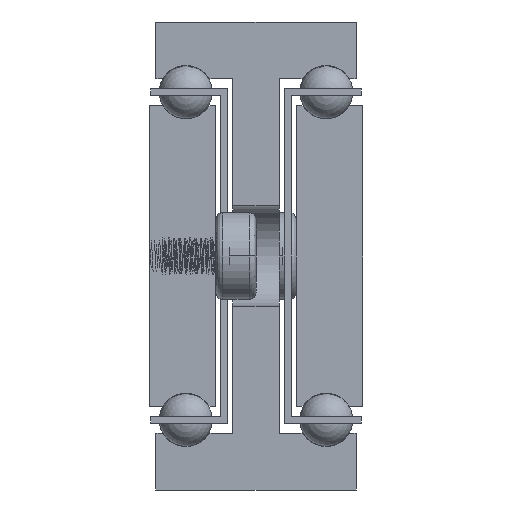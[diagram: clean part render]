
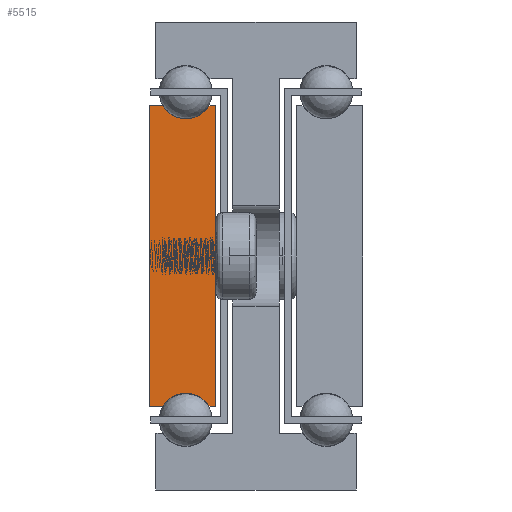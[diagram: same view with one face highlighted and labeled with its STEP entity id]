
A CAD part, front view. The second image highlights one B-rep face of the part: STEP entity #5515.
In plain terms, the highlighted planar face has unit normal (0, -1, 0).
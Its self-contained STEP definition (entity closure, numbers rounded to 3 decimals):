
#845=CIRCLE('',#5903,4.);
#847=CIRCLE('',#5909,4.);
#1249=FACE_OUTER_BOUND('',#1605,.T.);
#1605=EDGE_LOOP('',(#4358,#4359,#4360,#4361,#4362,#4363,#4364,#4365));
#2124=LINE('',#95102,#2336);
#2127=LINE('',#95108,#2339);
#2131=LINE('',#95120,#2343);
#2134=LINE('',#95126,#2346);
#2137=LINE('',#95132,#2349);
#2141=LINE('',#95142,#2353);
#2336=VECTOR('',#6562,1.);
#2339=VECTOR('',#6567,1.);
#2343=VECTOR('',#6579,1.);
#2346=VECTOR('',#6584,1.);
#2349=VECTOR('',#6589,1.);
#2353=VECTOR('',#6601,1.);
#2636=VERTEX_POINT('',#95099);
#2637=VERTEX_POINT('',#95101);
#2639=VERTEX_POINT('',#95107);
#2641=VERTEX_POINT('',#95113);
#2643=VERTEX_POINT('',#95119);
#2645=VERTEX_POINT('',#95125);
#2647=VERTEX_POINT('',#95131);
#2649=VERTEX_POINT('',#95137);
#3330=EDGE_CURVE('',#2637,#2636,#2124,.T.);
#3333=EDGE_CURVE('',#2639,#2637,#2127,.T.);
#3336=EDGE_CURVE('',#2641,#2639,#845,.T.);
#3339=EDGE_CURVE('',#2643,#2641,#2131,.T.);
#3342=EDGE_CURVE('',#2645,#2643,#2134,.T.);
#3345=EDGE_CURVE('',#2647,#2645,#2137,.T.);
#3348=EDGE_CURVE('',#2649,#2647,#847,.T.);
#3351=EDGE_CURVE('',#2636,#2649,#2141,.T.);
#4358=ORIENTED_EDGE('',*,*,#3351,.T.);
#4359=ORIENTED_EDGE('',*,*,#3348,.T.);
#4360=ORIENTED_EDGE('',*,*,#3345,.T.);
#4361=ORIENTED_EDGE('',*,*,#3342,.T.);
#4362=ORIENTED_EDGE('',*,*,#3339,.T.);
#4363=ORIENTED_EDGE('',*,*,#3336,.T.);
#4364=ORIENTED_EDGE('',*,*,#3333,.T.);
#4365=ORIENTED_EDGE('',*,*,#3330,.T.);
#5369=PLANE('',#5912);
#5515=ADVANCED_FACE('',(#1249),#5369,.T.);
#5903=AXIS2_PLACEMENT_3D('',#95114,#6573,#6574);
#5909=AXIS2_PLACEMENT_3D('',#95138,#6595,#6596);
#5912=AXIS2_PLACEMENT_3D('',#95144,#6604,#6605);
#6562=DIRECTION('',(0.,0.,-1.));
#6567=DIRECTION('',(-1.,0.,0.));
#6573=DIRECTION('center_axis',(0.,1.,0.));
#6574=DIRECTION('ref_axis',(-0.866,0.,-0.5));
#6579=DIRECTION('',(-1.,0.,0.));
#6584=DIRECTION('',(0.,0.,1.));
#6589=DIRECTION('',(1.,0.,0.));
#6595=DIRECTION('center_axis',(0.,1.,0.));
#6596=DIRECTION('ref_axis',(0.866,0.,0.5));
#6601=DIRECTION('',(1.,0.,0.));
#6604=DIRECTION('center_axis',(0.,-1.,0.));
#6605=DIRECTION('ref_axis',(1.,0.,0.));
#95099=CARTESIAN_POINT('',(-1168.534,-408.996,-57.5));
#95101=CARTESIAN_POINT('',(-1168.534,-408.996,-12.5));
#95102=CARTESIAN_POINT('',(-1168.534,-408.996,-57.5));
#95107=CARTESIAN_POINT('',(-1166.498,-408.996,-12.5));
#95108=CARTESIAN_POINT('',(-1168.534,-408.996,-12.5));
#95113=CARTESIAN_POINT('',(-1159.57,-408.996,-12.5));
#95114=CARTESIAN_POINT('Origin',(-1163.034,-408.996,-10.5));
#95119=CARTESIAN_POINT('',(-1158.534,-408.996,-12.5));
#95120=CARTESIAN_POINT('',(-1159.57,-408.996,-12.5));
#95125=CARTESIAN_POINT('',(-1158.534,-408.996,-57.5));
#95126=CARTESIAN_POINT('',(-1158.534,-408.996,-12.5));
#95131=CARTESIAN_POINT('',(-1159.57,-408.996,-57.5));
#95132=CARTESIAN_POINT('',(-1158.534,-408.996,-57.5));
#95137=CARTESIAN_POINT('',(-1166.498,-408.996,-57.5));
#95138=CARTESIAN_POINT('Origin',(-1163.034,-408.996,-59.5));
#95142=CARTESIAN_POINT('',(-1166.498,-408.996,-57.5));
#95144=CARTESIAN_POINT('Origin',(-1163.54,-408.996,-35.));
